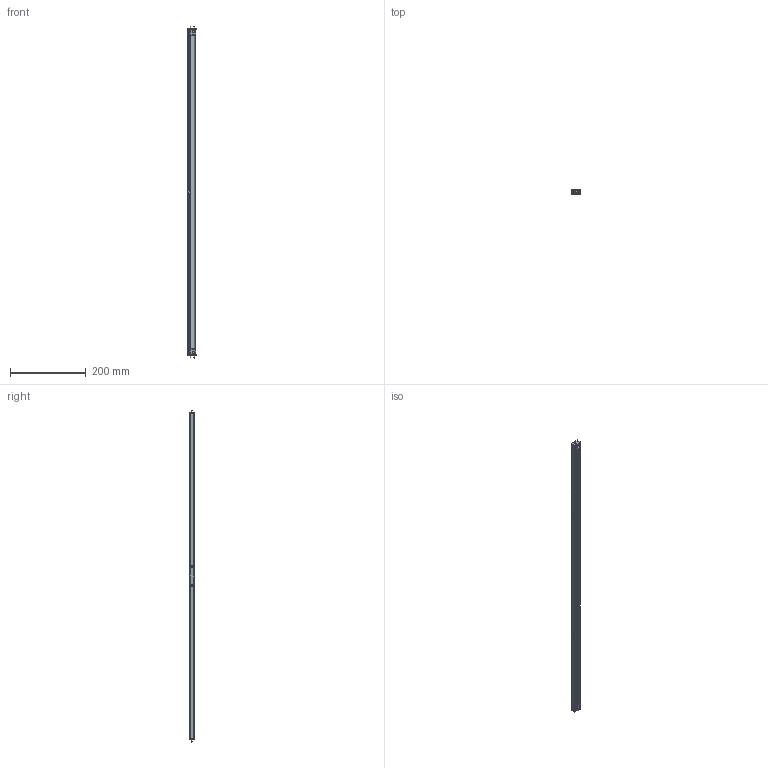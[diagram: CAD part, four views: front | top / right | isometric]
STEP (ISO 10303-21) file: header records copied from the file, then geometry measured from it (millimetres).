
FILE_DESCRIPTION (( 'STEP AP214' ), '1' );
FILE_NAME ('2000118 Kiton EDC mit 2 Sensoren 861 mm.STEP', '2022-11-03T11:15:15', ( '' ), ( '' ), 'SwSTEP 2.0', 'SolidWorks 2021', '' );
FILE_SCHEMA (( 'AUTOMOTIVE_DESIGN' ));
Length unit declared in the file: millimetre
Products named in the file (11): SENSORE PROG. PROXIMITY; sheet metal screws_din_Tapping screw DIN 7049-ST2.2x9.5-C-H-C; SUPPORTO TESTATA_SUPPORTO TESTATA DX; TESTATA_TESTATA SX; SUPPORTO TESTATA_SUPPORTO TESTATA SX; 2000118 Kiton EDC mit 2 Sensoren 861 mm; PROFILO LAMPADA_L.500 IR INTERNI; STRIP REEL 180 LED METRO 5.25mm; SCHERMO KITON_L.470; VITE TS TORX 2x6; TESTATA_TESTATA DX
Assembly tree (21 placements, depth 2):
  2000118 Kiton EDC mit 2 Sensoren 861 mm
    PROFILO LAMPADA_L.500 IR INTERNI
    SCHERMO KITON_L.470
    TESTATA_TESTATA DX
    TESTATA_TESTATA SX
    SUPPORTO TESTATA_SUPPORTO TESTATA DX
    SUPPORTO TESTATA_SUPPORTO TESTATA SX
    SENSORE PROG. PROXIMITY  x2
    STRIP REEL 180 LED METRO 5.25mm  x7
    sheet metal screws_din_Tapping screw DIN 7049-ST2.2x9.5-C-H-C  x4
    VITE TS TORX 2x6  x2
Bounding box: 21.13 x 11.42 x 874.26 mm (x, y, z)
Volume: 95893.7 mm3; surface area: 135442.9 mm2
Topology: 21 solids, 21 shells, 1722 faces, 4704 edges, 3114 vertices
Faces by surface type: plane 1204, cylinder 343, bspline 133, cone 22, sphere 12, torus 8
Entity records: 39890 total; most frequent: CARTESIAN_POINT 13847, ORIENTED_EDGE 5234, DIRECTION 4227, EDGE_CURVE 2617, VECTOR 1953, LINE 1953, VERTEX_POINT 1738, AXIS2_PLACEMENT_3D 1137
